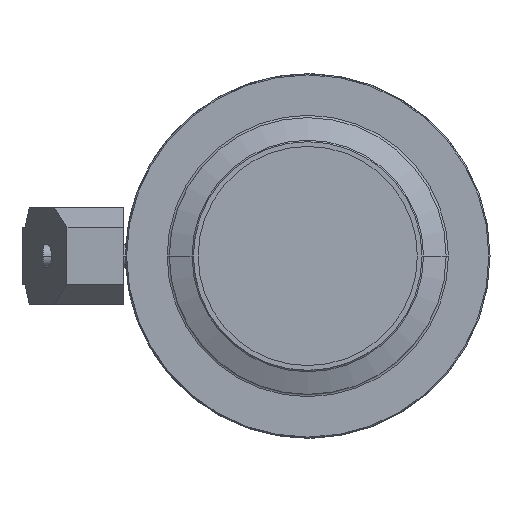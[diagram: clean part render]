
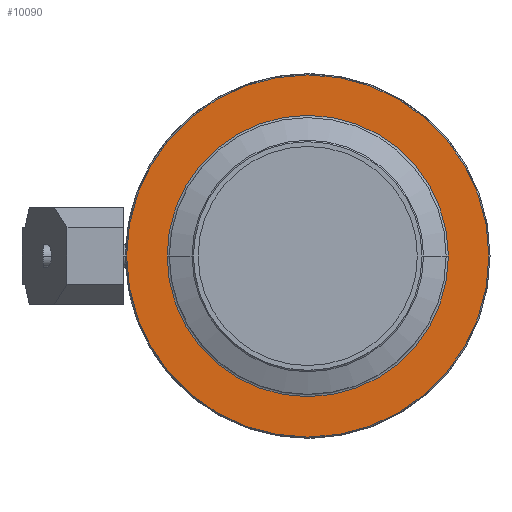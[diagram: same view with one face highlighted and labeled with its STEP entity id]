
A CAD part, left-side view. The second image highlights one B-rep face of the part: STEP entity #10090.
In plain terms, the highlighted planar face has unit normal (-1, 0, 0).
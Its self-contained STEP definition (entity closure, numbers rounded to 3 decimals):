
#9160=CARTESIAN_POINT('',(24.717,-82.438,0.));
#9170=VERTEX_POINT('',#9160);
#9200=CARTESIAN_POINT('',(24.717,-19.938,0.));
#9210=DIRECTION('',(1.,0.,0.));
#9220=DIRECTION('',(0.,1.,0.));
#9230=AXIS2_PLACEMENT_3D('',#9200,#9210,#9220);
#9240=CIRCLE('',#9230,62.5);
#9250=CARTESIAN_POINT('',(24.717,42.562,0.));
#9260=VERTEX_POINT('',#9250);
#9270=EDGE_CURVE('',#9170,#9260,#9240,.T.);
#9840=CARTESIAN_POINT('',(24.717,58.462,0.));
#9850=DIRECTION('',(-1.,0.,0.));
#9860=DIRECTION('',(0.,1.,0.));
#9870=AXIS2_PLACEMENT_3D('',#9840,#9850,#9860);
#9880=PLANE('',#9870);
#9890=EDGE_CURVE('',#9260,#9170,#9240,.T.);
#9900=ORIENTED_EDGE('',*,*,#9890,.T.);
#9910=ORIENTED_EDGE('',*,*,#9270,.T.);
#9920=EDGE_LOOP('',(#9910,#9900));
#9930=FACE_BOUND('',#9920,.T.);
#9940=CARTESIAN_POINT('',(24.717,-19.938,0.));
#9950=DIRECTION('',(1.,0.,0.));
#9960=DIRECTION('',(0.,1.,0.));
#9970=AXIS2_PLACEMENT_3D('',#9940,#9950,#9960);
#9980=CIRCLE('',#9970,80.5);
#9990=CARTESIAN_POINT('',(24.717,60.562,
0.));
#10000=VERTEX_POINT('',#9990);
#10010=CARTESIAN_POINT('',(24.717,-100.438,0.));
#10020=VERTEX_POINT('',#10010);
#10030=EDGE_CURVE('',#10000,#10020,#9980,.T.);
#10040=ORIENTED_EDGE('',*,*,#10030,.F.);
#10050=EDGE_CURVE('',#10020,#10000,#9980,.T.);
#10060=ORIENTED_EDGE('',*,*,#10050,.F.);
#10070=EDGE_LOOP('',(#10060,#10040));
#10080=FACE_OUTER_BOUND('',#10070,.T.);
#10090=ADVANCED_FACE('',(#9930,#10080),#9880,.T.);
